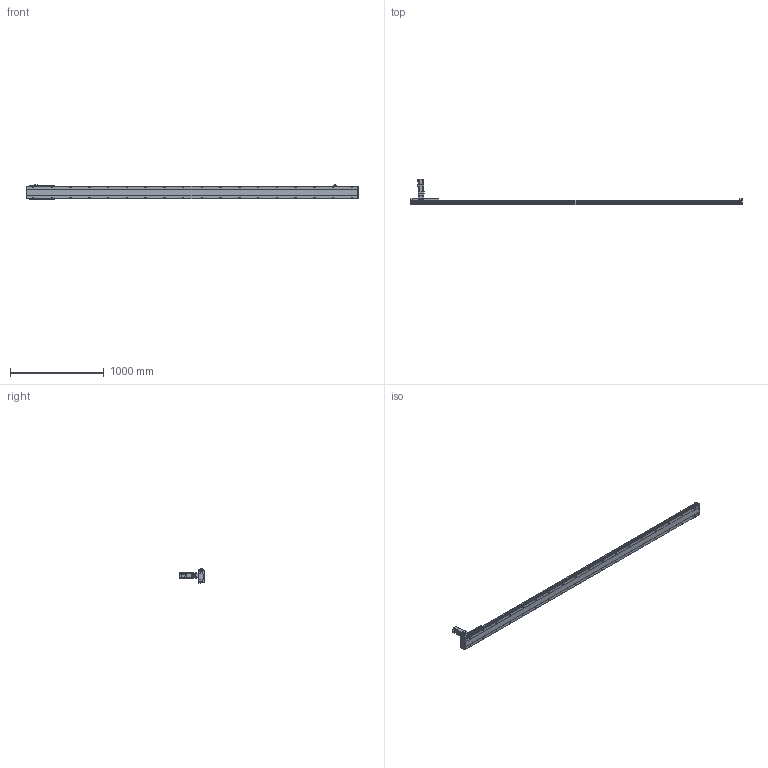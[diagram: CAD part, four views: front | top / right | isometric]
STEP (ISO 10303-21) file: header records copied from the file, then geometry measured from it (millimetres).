
FILE_DESCRIPTION(/* description */ ('STEP AP203'),/* implementation_level */ '2;1');
FILE_NAME(/* name */ 'SHS14A-L10-S3200-BC-T40-C1-N(0)',/* time_stamp */ '2023-03-27T08:52:51+02:00',/* author */ ('License CC BY-ND 4.0'),/* organization */ ('CADENAS'),/* preprocessor_version */ 'ST-DEVELOPER v19.3',/* originating_system */ 'PARTsolutions',/* authorisation */ ' ');
FILE_SCHEMA (('CONFIG_CONTROL_DESIGN'));
Length unit declared in the file: millimetre
Products named in the file (7): SHS14A-L10-S3200-BC-T40-C1-N(0); PSC140-sensor; T40-p1; SHS14AT_body3; SHS14A-3200_slider; SHS14A_body2; SHS14A-S3200-BC-T40-C1(0)_body
Assembly tree (13 placements, depth 2):
  SHS14A-L10-S3200-BC-T40-C1-N(0)
    PSC140-sensor  x3
    T40-p1
    SHS14AT_body3
    SHS14A-3200_slider
    SHS14A_body2  x6
    SHS14A-S3200-BC-T40-C1(0)_body
Bounding box: 3540 x 272.7 x 150.9 mm (x, y, z)
Volume: 14344644.2 mm3; surface area: 2224688.8 mm2
Topology: 13 solids, 13 shells, 2188 faces, 5583 edges, 3650 vertices
Faces by surface type: plane 1503, cylinder 587, cone 88, torus 10
Full cylindrical faces by diameter (mm): 2.8 x3, 4.134 x24, 4.2 x7, 4.4 x24, 4.5 x24, 4.6 x3, 4.8 x24, 4.917 x44, 5 x8, 5.5 x11, 5.94 x6, 6 x2, 6.6 x36, 8 x24, 8.49 x4, 8.5 x4, 9 x4, 10.5 x36, 13.964 x1, 14 x1, 14.182 x1, 16 x1, 18.974 x1, 19.274 x1, 19.774 x1, 19.8 x1, 34.442 x1, 42 x1, 50 x5
Entity records: 36006 total; most frequent: CARTESIAN_POINT 6462, DIRECTION 6083, ORIENTED_EDGE 5562, EDGE_CURVE 2781, AXIS2_PLACEMENT_3D 2145, VERTEX_POINT 1996, EDGE_LOOP 1859, FACE_BOUND 1859
